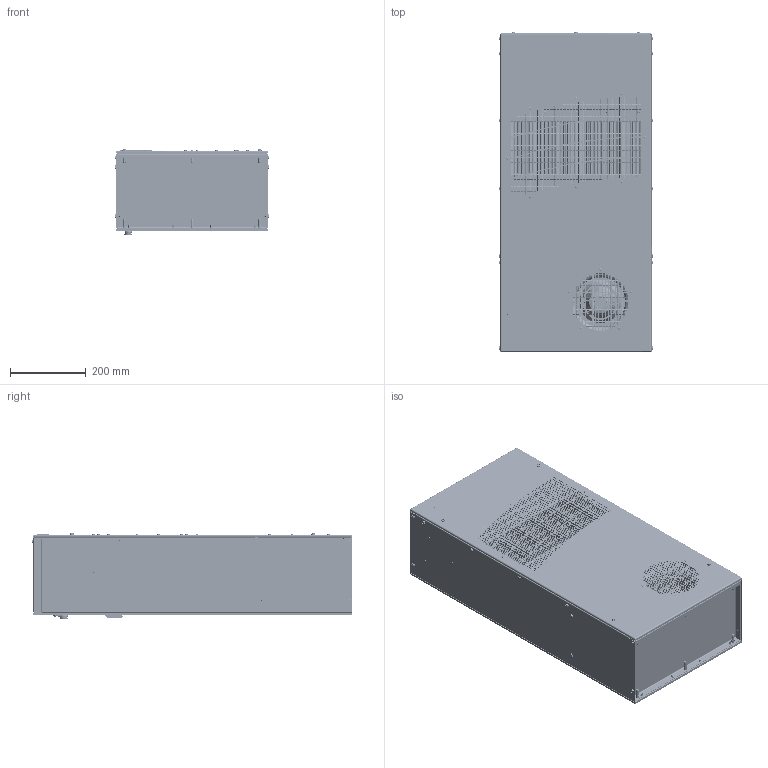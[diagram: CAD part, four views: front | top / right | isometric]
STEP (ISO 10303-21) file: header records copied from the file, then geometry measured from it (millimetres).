
FILE_DESCRIPTION (( 'STEP AP214' ), '1' );
FILE_NAME ('TX33.STEP', '2017-02-21T15:45:27', ( '' ), ( '' ), 'SwSTEP 2.0', 'SolidWorks 2014', '' );
FILE_SCHEMA (( 'AUTOMOTIVE_DESIGN' ));
Length unit declared in the file: inch
Products named in the file (63): 10-1052-08; 33-5118-00; 52-6084-02; 33-5103-01; 89107047; 52-6048-40; 10-1014-200_10-1014-200; 33-5110-00; 10-1091-130; 89095669_89095669; 10-1002-289; 10-1091-121; 10-1002-310; 89092464; 33-5106-01; 89100024; 10-1061-16; 89086559; 10-1014-28_10-1014-28; 33-5111-00_flexible; 38-2023-17; 10-1015-208_PEM CLSS-024-1 ---N; 10-1003-06; 89086598; 52-6048-38; 89084142; 89129380; 89086596; 52-6048-06; 38-2023-12; 89086594; 33-5104-00; TX33; 04-2001-516; 10-1014-269_87547883; 33-5112-00; 10-1002-315; 33-5128-00; 10-1014-135_CR-PHMS 0.19-24x0.375x0.375-N; 89105523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
Assembly tree (216 placements, depth 3):
  TX33
    33-5103-01
      89084142
      10-1015-208_PEM CLSS-024-1 ---N  x6
      89095669_89095669
      89095669_89095669
      89095669_89095669
      89095669_89095669
      10-1014-200_10-1014-200  x7
    10-1052-08  x2
    10-1015-146  x12
    89086556  x2
    89086558  x2
    10-1015-04  x12
    90-2000-66
    33-7005-00_Assembly
    10-1054-01  x2
    33-5128-00  x2
    10-1014-269_87547883  x37
    33-5111-00_flexible
      89086594  x2
      89086596
      89086598  x2
    10-1061-16
    89092464  x10
    10-1002-289
    33-5110-00
    89107047
    33-5118-00
    33-5118-01
    10-1097-23  x13
    03-63590-00  x13
    89086565  x2
    33-5113-00
      89084202
      10-1015-208_PEM CLSS-024-1 ---N  x6
    10-1014-135_CR-PHMS 0.19-24x0.375x0.375-N  x25
    33-5112-00
    33-5104-00
    52-6048-06  x2
    52-6048-38  x2
    38-2023-17
    89086559
    33-5106-01  x2
    10-1091-130  x2
      10-1091-121
    52-6048-40  x2
    52-6084-02  x2
    33-5131-00
    89086562  x2
    33-5130-00
    10-1014-10  x5
    33-5114-00
    10-1072-106  x2
    10-1002-266  x2
    89105523
    10-1002-315
    04-2001-516
    38-2023-12
    89129380
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Bounding box: 405.89 x 841.83 x 225.7 mm (x, y, z)
Volume: 6156900 mm3; surface area: 14323363.4 mm2
Topology: 375 solids, 379 shells, 27450 faces, 70228 edges, 44827 vertices
Faces by surface type: plane 16240, cylinder 4686, cone 3023, bspline 2970, torus 410, sphere 121
Entity records: 745850 total; most frequent: CARTESIAN_POINT 237330, ORIENTED_EDGE 89676, DIRECTION 73637, EDGE_CURVE 44842, VECTOR 34263, LINE 34263, VERTEX_POINT 29486, AXIS2_PLACEMENT_3D 19687
